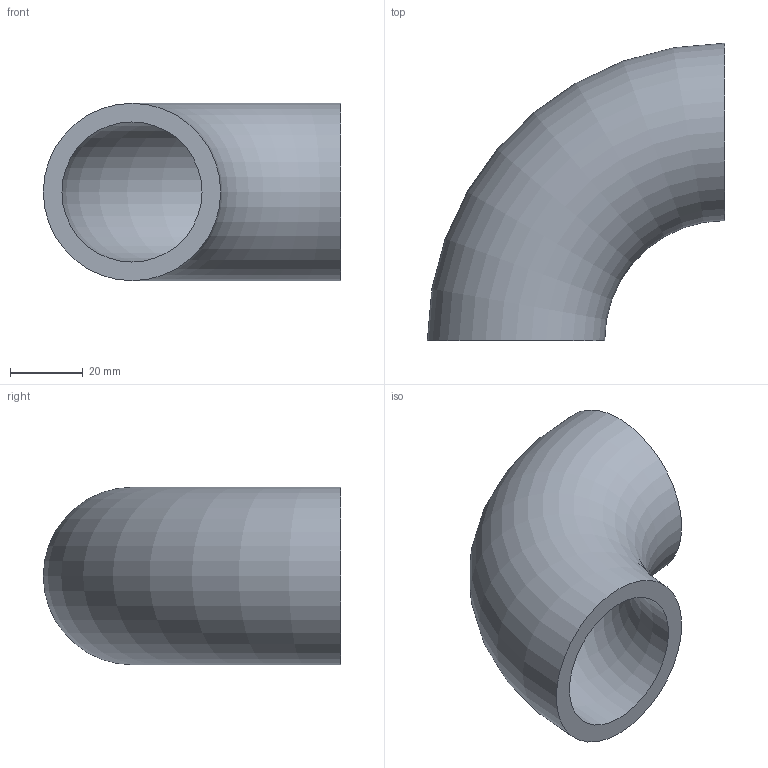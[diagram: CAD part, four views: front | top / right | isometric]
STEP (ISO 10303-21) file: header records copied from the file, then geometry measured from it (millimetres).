
FILE_DESCRIPTION(/* description */ (''),/* implementation_level */ '2;1');
FILE_NAME(/* name */ 'C:\Users\D\Documents\Inventor\HP\JIS\配管\エルボ ロング 90°\Sch80\Elbow-long-90-40A-Sch80.stp',/* time_stamp */ '2022-06-09T18:39:40+09:00',/* author */ ('D'),/* organization */ (''),/* preprocessor_version */ 'ST-DEVELOPER v18',/* originating_system */ 'Autodesk Inventor 2020',/* authorisation */ '');
FILE_SCHEMA (('AUTOMOTIVE_DESIGN { 1 0 10303 214 3 1 1 }'));
Length unit declared in the file: millimetre
Products named in the file (1): Elbow-long-90-15A-SGP
Bounding box: 81.5 x 81.5 x 48.6 mm (x, y, z)
Volume: 62621.8 mm3; surface area: 25951.5 mm2
Topology: 1 solids, 1 shells, 4 faces, 10 edges, 8 vertices
Faces by surface type: torus 2, plane 2
Entity records: 181 total; most frequent: DIRECTION 30, CARTESIAN_POINT 23, ORIENTED_EDGE 20, AXIS2_PLACEMENT_3D 15, CIRCLE 10, EDGE_CURVE 10, VERTEX_POINT 8, EDGE_LOOP 6
